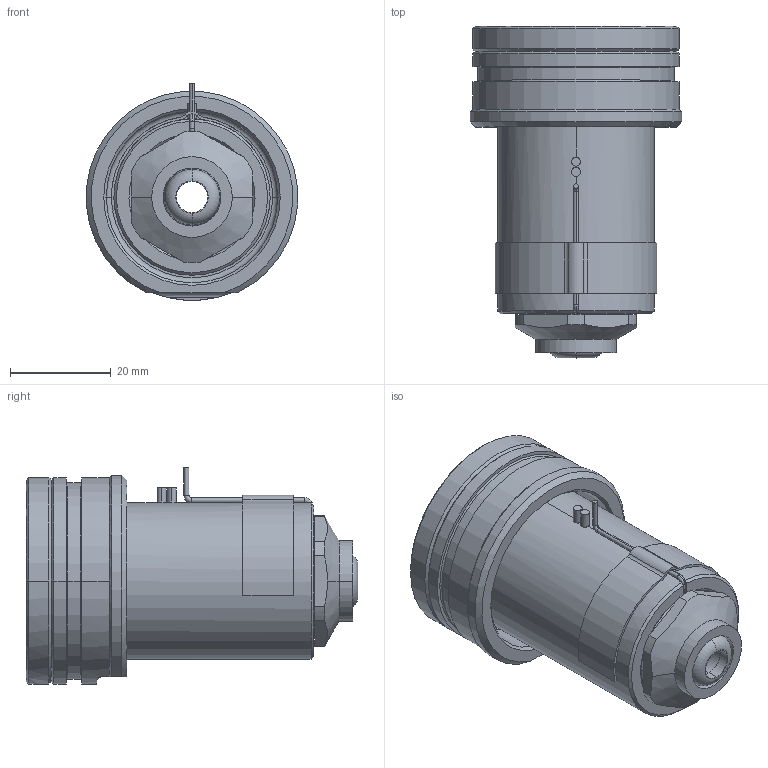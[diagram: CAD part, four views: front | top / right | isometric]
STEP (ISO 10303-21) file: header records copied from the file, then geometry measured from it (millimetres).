
FILE_DESCRIPTION((''),'2;1');
FILE_NAME('EO12_VG-BL_STD_050_SW','2024-02-19T13:12:35',('sundharh'),(''),'CREO PARAMETRIC BY PTC INC, 2023154','CREO PARAMETRIC BY PTC INC, 2023154','');
FILE_SCHEMA(('CONFIG_CONTROL_DESIGN'));
Length unit declared in the file: millimetre
Products named in the file (1): EO12_VG-BL_STD_050_SW
Bounding box: 41.85 x 65.8 x 43 mm (x, y, z)
Volume: 47634.3 mm3; surface area: 16543.7 mm2
Topology: 2 solids, 3 shells, 205 faces, 508 edges, 307 vertices
Faces by surface type: cylinder 73, plane 47, cone 39, torus 35, bspline 9, sphere 2
Entity records: 6886 total; most frequent: CARTESIAN_POINT 1910, DIRECTION 1108, ORIENTED_EDGE 1012, EDGE_CURVE 506, AXIS2_PLACEMENT_3D 467, VERTEX_POINT 307, CIRCLE 271, EDGE_LOOP 221
